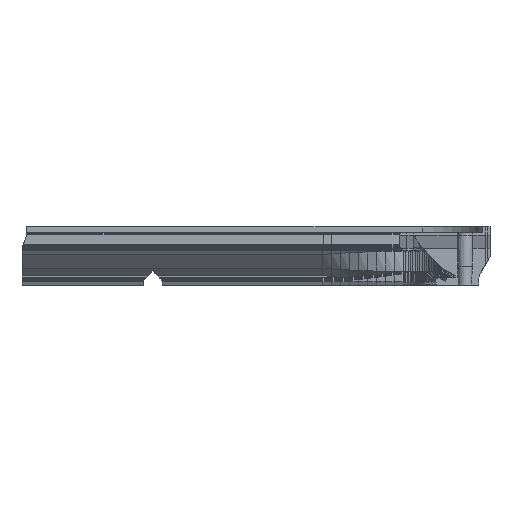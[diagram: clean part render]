
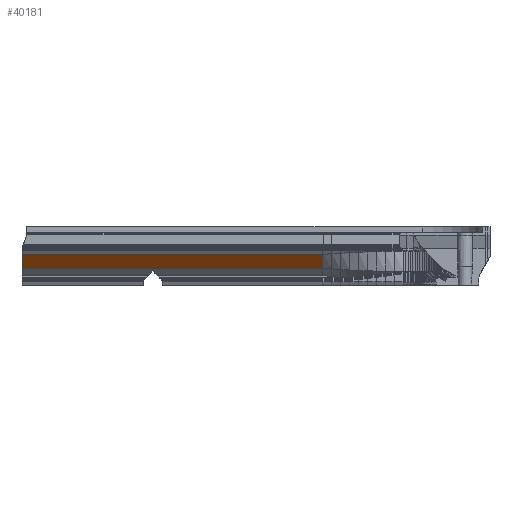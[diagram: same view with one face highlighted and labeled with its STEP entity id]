
A CAD part, front view. The second image highlights one B-rep face of the part: STEP entity #40181.
In plain terms, the highlighted planar face has unit normal (0, -0.707, -0.707).
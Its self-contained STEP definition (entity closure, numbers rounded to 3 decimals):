
#8228 = PLANE('',#8229);
#8229 = AXIS2_PLACEMENT_3D('',#8230,#8231,#8232);
#8230 = CARTESIAN_POINT('',(0.1,167.9,8.));
#8231 = DIRECTION('',(-1.,0.,0.));
#8232 = DIRECTION('',(0.,-1.,0.));
#22461 = PLANE('',#22462);
#22462 = AXIS2_PLACEMENT_3D('',#22463,#22464,#22465);
#22463 = CARTESIAN_POINT('',(-126.7,154.495,13.005));
#22464 = DIRECTION('',(-0.,-0.777,-0.63));
#22465 = DIRECTION('',(0.,-0.63,0.777));
#23382 = VERTEX_POINT('',#23383);
#23383 = CARTESIAN_POINT('',(0.1,160.505,6.995));
#23396 = PLANE('',#23397);
#23397 = AXIS2_PLACEMENT_3D('',#23398,#23399,#23400);
#23398 = CARTESIAN_POINT('',(-126.7,166.,4.));
#23399 = DIRECTION('',(-0.,-0.479,-0.878));
#23400 = DIRECTION('',(0.,-0.878,0.479));
#23407 = EDGE_CURVE('',#23408,#23382,#23410,.T.);
#23408 = VERTEX_POINT('',#23409);
#23409 = CARTESIAN_POINT('',(0.1,154.495,13.005));
#23410 = SURFACE_CURVE('',#23411,(#23415,#23421),.PCURVE_S1.);
#23411 = LINE('',#23412,#23413);
#23412 = CARTESIAN_POINT('',(0.1,162.103,5.397));
#23413 = VECTOR('',#23414,1.);
#23414 = DIRECTION('',(0.,0.707,-0.707));
#23415 = PCURVE('',#8228,#23416);
#23416 = DEFINITIONAL_REPRESENTATION('',(#23417),#23420);
#23417 = B_SPLINE_CURVE_WITH_KNOTS('',1,(#23418,#23419),.UNSPECIFIED.,
  .F.,.F.,(2,2),(-10.759,-2.259),
  .PIECEWISE_BEZIER_KNOTS.);
#23418 = CARTESIAN_POINT('',(13.405,5.005));
#23419 = CARTESIAN_POINT('',(7.395,-1.005));
#23420 = ( GEOMETRIC_REPRESENTATION_CONTEXT(2) 
PARAMETRIC_REPRESENTATION_CONTEXT() REPRESENTATION_CONTEXT('2D SPACE',''
  ) );
#23421 = PCURVE('',#23422,#23427);
#23422 = PLANE('',#23423);
#23423 = AXIS2_PLACEMENT_3D('',#23424,#23425,#23426);
#23424 = CARTESIAN_POINT('',(-126.7,160.505,6.995));
#23425 = DIRECTION('',(-0.,-0.707,-0.707));
#23426 = DIRECTION('',(0.,-0.707,0.707));
#23427 = DEFINITIONAL_REPRESENTATION('',(#23428),#23431);
#23428 = B_SPLINE_CURVE_WITH_KNOTS('',1,(#23429,#23430),.UNSPECIFIED.,
  .F.,.F.,(2,2),(-10.759,-2.259),
  .PIECEWISE_BEZIER_KNOTS.);
#23429 = CARTESIAN_POINT('',(8.5,-126.8));
#23430 = CARTESIAN_POINT('',(0.,-126.8));
#23431 = ( GEOMETRIC_REPRESENTATION_CONTEXT(2) 
PARAMETRIC_REPRESENTATION_CONTEXT() REPRESENTATION_CONTEXT('2D SPACE',''
  ) );
#40138 = EDGE_CURVE('',#40139,#23408,#40141,.T.);
#40139 = VERTEX_POINT('',#40140);
#40140 = CARTESIAN_POINT('',(126.4,154.495,13.005));
#40141 = SURFACE_CURVE('',#40142,(#40145,#40151),.PCURVE_S1.);
#40142 = B_SPLINE_CURVE_WITH_KNOTS('',1,(#40143,#40144),.UNSPECIFIED.,
  .F.,.F.,(2,2),(0.,1.),.PIECEWISE_BEZIER_KNOTS.);
#40143 = CARTESIAN_POINT('',(126.7,154.495,13.005));
#40144 = CARTESIAN_POINT('',(-126.7,154.495,13.005));
#40145 = PCURVE('',#22461,#40146);
#40146 = DEFINITIONAL_REPRESENTATION('',(#40147),#40150);
#40147 = B_SPLINE_CURVE_WITH_KNOTS('',1,(#40148,#40149),.UNSPECIFIED.,
  .F.,.F.,(2,2),(0.,1.),.PIECEWISE_BEZIER_KNOTS.);
#40148 = CARTESIAN_POINT('',(0.,-253.4));
#40149 = CARTESIAN_POINT('',(0.,0.));
#40150 = ( GEOMETRIC_REPRESENTATION_CONTEXT(2) 
PARAMETRIC_REPRESENTATION_CONTEXT() REPRESENTATION_CONTEXT('2D SPACE',''
  ) );
#40151 = PCURVE('',#23422,#40152);
#40152 = DEFINITIONAL_REPRESENTATION('',(#40153),#40156);
#40153 = B_SPLINE_CURVE_WITH_KNOTS('',1,(#40154,#40155),.UNSPECIFIED.,
  .F.,.F.,(2,2),(0.,1.),.PIECEWISE_BEZIER_KNOTS.);
#40154 = CARTESIAN_POINT('',(8.5,-253.4));
#40155 = CARTESIAN_POINT('',(8.5,0.));
#40156 = ( GEOMETRIC_REPRESENTATION_CONTEXT(2) 
PARAMETRIC_REPRESENTATION_CONTEXT() REPRESENTATION_CONTEXT('2D SPACE',''
  ) );
#40181 = ADVANCED_FACE('',(#40182),#23422,.T.);
#40182 = FACE_BOUND('',#40183,.T.);
#40183 = EDGE_LOOP('',(#40184,#40204,#40230,#40231));
#40184 = ORIENTED_EDGE('',*,*,#40185,.F.);
#40185 = EDGE_CURVE('',#40186,#23382,#40188,.T.);
#40186 = VERTEX_POINT('',#40187);
#40187 = CARTESIAN_POINT('',(126.4,160.505,6.995));
#40188 = SURFACE_CURVE('',#40189,(#40192,#40198),.PCURVE_S1.);
#40189 = B_SPLINE_CURVE_WITH_KNOTS('',1,(#40190,#40191),.UNSPECIFIED.,
  .F.,.F.,(2,2),(0.,1.),.PIECEWISE_BEZIER_KNOTS.);
#40190 = CARTESIAN_POINT('',(126.7,160.505,6.995));
#40191 = CARTESIAN_POINT('',(-126.7,160.505,6.995));
#40192 = PCURVE('',#23422,#40193);
#40193 = DEFINITIONAL_REPRESENTATION('',(#40194),#40197);
#40194 = B_SPLINE_CURVE_WITH_KNOTS('',1,(#40195,#40196),.UNSPECIFIED.,
  .F.,.F.,(2,2),(0.,1.),.PIECEWISE_BEZIER_KNOTS.);
#40195 = CARTESIAN_POINT('',(0.,-253.4));
#40196 = CARTESIAN_POINT('',(0.,0.));
#40197 = ( GEOMETRIC_REPRESENTATION_CONTEXT(2) 
PARAMETRIC_REPRESENTATION_CONTEXT() REPRESENTATION_CONTEXT('2D SPACE',''
  ) );
#40198 = PCURVE('',#23396,#40199);
#40199 = DEFINITIONAL_REPRESENTATION('',(#40200),#40203);
#40200 = B_SPLINE_CURVE_WITH_KNOTS('',1,(#40201,#40202),.UNSPECIFIED.,
  .F.,.F.,(2,2),(0.,1.),.PIECEWISE_BEZIER_KNOTS.);
#40201 = CARTESIAN_POINT('',(6.258,-253.4));
#40202 = CARTESIAN_POINT('',(6.258,0.));
#40203 = ( GEOMETRIC_REPRESENTATION_CONTEXT(2) 
PARAMETRIC_REPRESENTATION_CONTEXT() REPRESENTATION_CONTEXT('2D SPACE',''
  ) );
#40204 = ORIENTED_EDGE('',*,*,#40205,.T.);
#40205 = EDGE_CURVE('',#40186,#40139,#40206,.T.);
#40206 = SURFACE_CURVE('',#40207,(#40211,#40218),.PCURVE_S1.);
#40207 = LINE('',#40208,#40209);
#40208 = CARTESIAN_POINT('',(126.4,160.505,6.995));
#40209 = VECTOR('',#40210,1.);
#40210 = DIRECTION('',(0.,-0.707,0.707));
#40211 = PCURVE('',#23422,#40212);
#40212 = DEFINITIONAL_REPRESENTATION('',(#40213),#40217);
#40213 = LINE('',#40214,#40215);
#40214 = CARTESIAN_POINT('',(0.,-253.1));
#40215 = VECTOR('',#40216,1.);
#40216 = DIRECTION('',(1.,0.));
#40217 = ( GEOMETRIC_REPRESENTATION_CONTEXT(2) 
PARAMETRIC_REPRESENTATION_CONTEXT() REPRESENTATION_CONTEXT('2D SPACE',''
  ) );
#40218 = PCURVE('',#40219,#40224);
#40219 = B_SPLINE_SURFACE_WITH_KNOTS('',1,1,(
    (#40220,#40221)
    ,(#40222,#40223
    )),.UNSPECIFIED.,.F.,.F.,.F.,(2,2),(2,2),(0.,8.5),(0.,1.),
  .PIECEWISE_BEZIER_KNOTS.);
#40220 = CARTESIAN_POINT('',(130.133,160.51,
    6.842));
#40221 = CARTESIAN_POINT('',(126.4,160.505,6.995));
#40222 = CARTESIAN_POINT('',(130.133,154.823,
    13.158));
#40223 = CARTESIAN_POINT('',(126.4,154.495,13.005));
#40224 = DEFINITIONAL_REPRESENTATION('',(#40225),#40229);
#40225 = LINE('',#40226,#40227);
#40226 = CARTESIAN_POINT('',(0.,1.));
#40227 = VECTOR('',#40228,1.);
#40228 = DIRECTION('',(1.,0.));
#40229 = ( GEOMETRIC_REPRESENTATION_CONTEXT(2) 
PARAMETRIC_REPRESENTATION_CONTEXT() REPRESENTATION_CONTEXT('2D SPACE',''
  ) );
#40230 = ORIENTED_EDGE('',*,*,#40138,.T.);
#40231 = ORIENTED_EDGE('',*,*,#23407,.T.);
